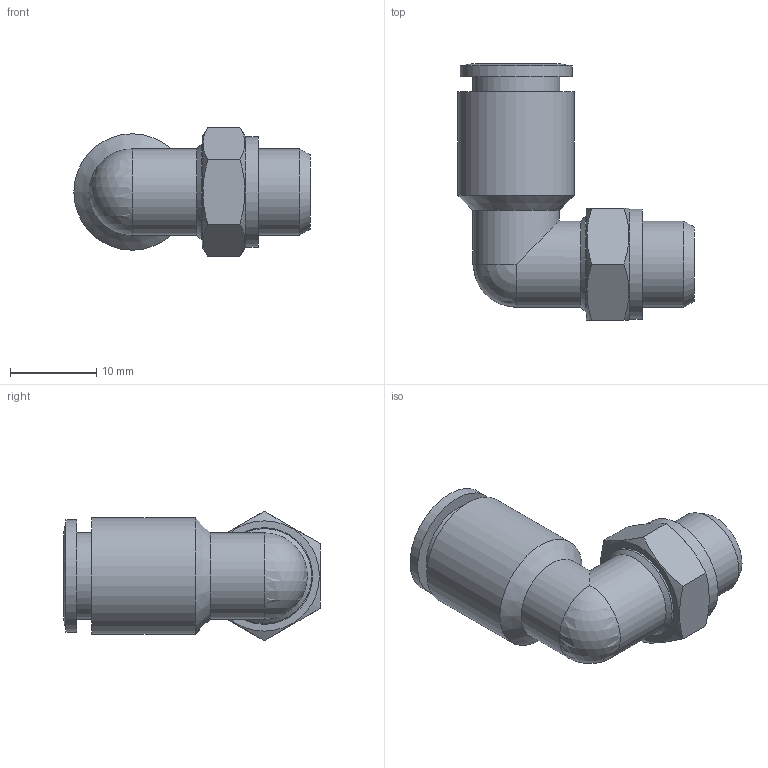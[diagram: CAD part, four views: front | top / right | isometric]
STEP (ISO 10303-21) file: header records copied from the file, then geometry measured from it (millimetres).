
FILE_DESCRIPTION((''),'2;1');
FILE_NAME('C:\Documents and Settings\rivolro1\Documenti\copia di Raccordi\PLASTICA\T22XXXX\T220818.stp','2007-11-02T14:27:22',('Rivolro1'),(''),'Autodesk Inventor 2008','Autodesk Inventor 2008','');
FILE_SCHEMA(('AUTOMOTIVE_DESIGN { 1 0 10303 214 1 1 1 1 }'));
Length unit declared in the file: millimetre
Products named in the file (1): T220818
Bounding box: 27.4 x 29.75 x 15.01 mm (x, y, z)
Volume: 3450 mm3; surface area: 2922 mm2
Topology: 1 solids, 1 shells, 37 faces, 84 edges, 51 vertices
Faces by surface type: plane 14, cylinder 12, cone 6, bspline 4, sphere 1
Full cylindrical faces by diameter (mm): 3.8 x1, 6.2 x1, 10 x3, 10.1 x1, 11 x1, 11.2 x1, 12.8 x1, 13 x1, 13.5 x1
Entity records: 1063 total; most frequent: CARTESIAN_POINT 304, DIRECTION 142, ORIENTED_EDGE 112, AXIS2_PLACEMENT_3D 66, EDGE_LOOP 63, EDGE_CURVE 56, VERTEX_POINT 45, FACE_OUTER_BOUND 37
